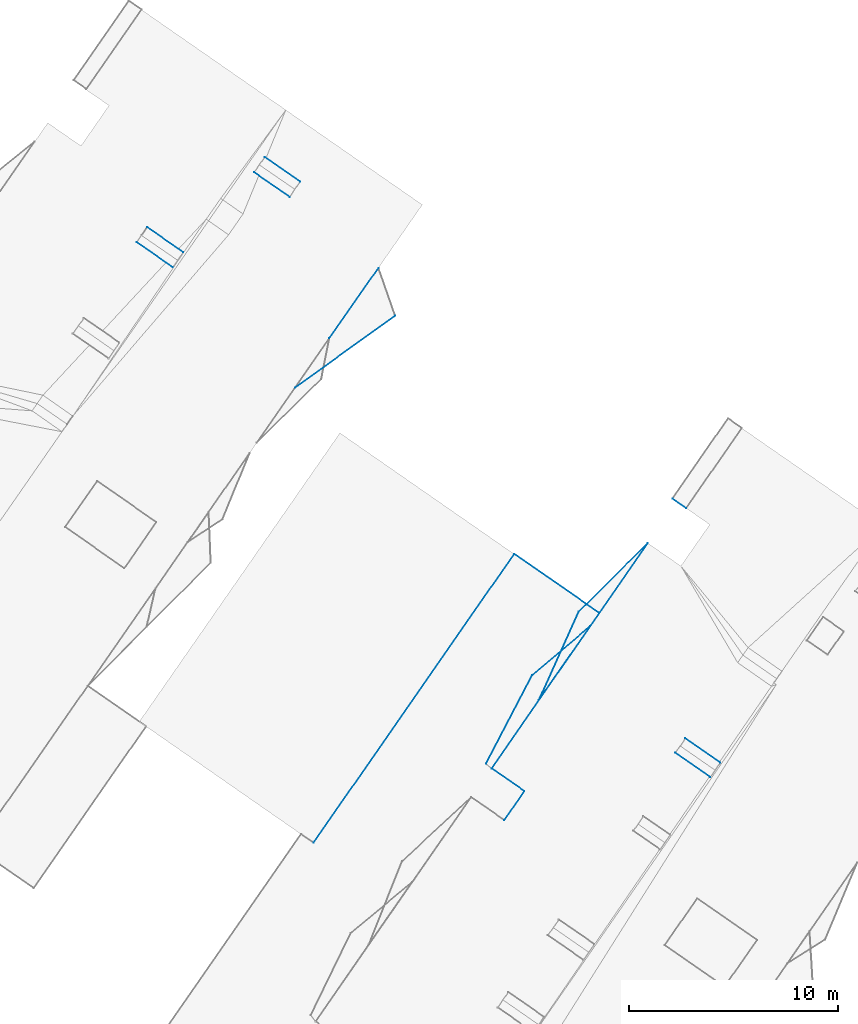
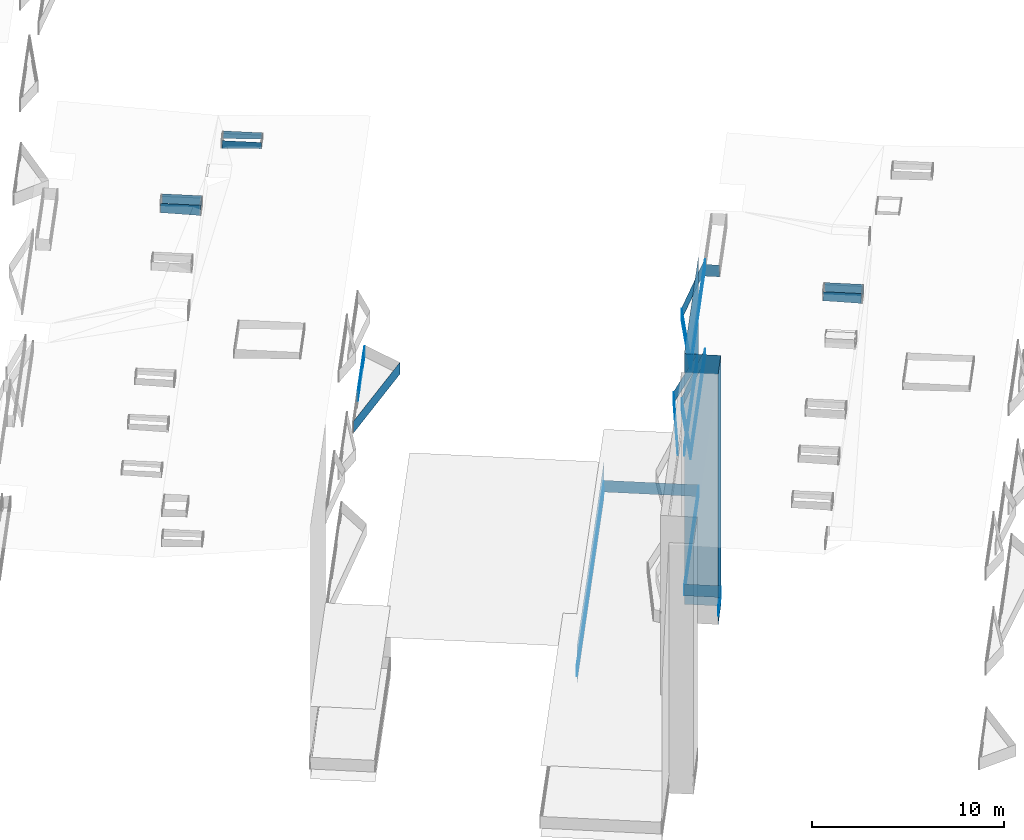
# Not in any storey, part 41 of 136: 44 walls.
"""IFC2X3 building model written with IfcOpenShell, lengths in metres."""

from ifc_helpers import new_model, entity, si_unit, converted_unit, frame, origin, place, context, subcontext, project, spatial, face_set, surface_model, element, save


model = new_model("IFC2X3")

# Units and contexts
model_context = context("Model", 3, precision=1e-05, world=origin())
body_context = subcontext(model_context, "Body", "Model", "MODEL_VIEW")
ifc_project = project(units=[converted_unit("PLANEANGLEUNIT", "DEGREE", entity("IfcRatioMeasure", 0.0174532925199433), si_unit("PLANEANGLEUNIT", "RADIAN"), dimensions=[0, 0, 0, 0, 0, 0, 0]), si_unit("AREAUNIT", "SQUARE_METRE"), si_unit("LENGTHUNIT", "METRE")], contexts=[model_context])

# Site, building
site_placement = place(None, origin())
site = spatial("IfcSite", under=ifc_project, at=site_placement, Name="_site", CompositionType="ELEMENT")
building_1_placement = place(site_placement, origin())
building_1 = spatial("IfcBuilding", under=site, at=building_1_placement, Name="_building", CompositionType="ELEMENT")

# Walls
wall_1_placement = place(building_1_placement, origin())
element("IfcWall", 1, at=wall_1_placement, inside=building_1, Name="Wall", context=body_context, shape_type="SurfaceModel", body=[
    surface_model("IfcFaceBasedSurfaceModel", [(-17.93, 61.93, 44.4), (-16.02, 66.17, 44.4), (-16.02, 66.17, 45.15), (-17.93, 61.93, 45.15)], [face_set([[[0, 1, 2, 3]]])]),
])
wall_2_placement = place(building_1_placement, origin())
element("IfcWall", 2, at=wall_2_placement, inside=building_1, Name="Wall", context=body_context, shape_type="SurfaceModel", body=[
    surface_model("IfcFaceBasedSurfaceModel", [(-16.02, 66.17, 44.4), (-12.71, 69.46, 44.4), (-12.71, 69.46, 45.15), (-16.02, 66.17, 45.15)], [face_set([[[0, 1, 2, 3]]])]),
])
wall_3_placement = place(building_1_placement, origin())
element("IfcWall", 3, at=wall_3_placement, inside=building_1, Name="Wall", context=body_context, shape_type="SurfaceModel", body=[
    surface_model("IfcFaceBasedSurfaceModel", [(-12.71, 69.46, 44.4), (-17.93, 61.93, 44.4), (-17.93, 61.93, 45.15), (-12.71, 69.46, 45.15)], [face_set([[[0, 1, 2, 3]]])]),
])
wall_4_placement = place(building_1_placement, origin())
element("IfcWall", 4, at=wall_4_placement, inside=building_1, Name="Wall", context=body_context, shape_type="SurfaceModel", body=[
    surface_model("IfcFaceBasedSurfaceModel", [(-16.02, 66.17, 44.4), (-12.71, 69.46, 44.4), (-12.71, 69.46, 45.15), (-16.02, 66.17, 45.15)], [face_set([[[0, 1, 2, 3]]])]),
])
wall_5_placement = place(building_1_placement, origin())
element("IfcWall", 5, at=wall_5_placement, inside=building_1, Name="Wall", context=body_context, shape_type="SurfaceModel", body=[
    surface_model("IfcFaceBasedSurfaceModel", [(-17.93, 61.93, 44.4), (-16.02, 66.17, 44.4), (-16.02, 66.17, 45.15), (-17.93, 61.93, 45.15)], [face_set([[[0, 1, 2, 3]]])]),
])
wall_6_placement = place(building_1_placement, origin())
element("IfcWall", 6, at=wall_6_placement, inside=building_1, Name="Wall", context=body_context, shape_type="SurfaceModel", body=[
    surface_model("IfcFaceBasedSurfaceModel", [(-12.71, 69.46, 44.4), (-17.93, 61.93, 44.4), (-17.93, 61.93, 45.15), (-12.71, 69.46, 45.15)], [face_set([[[0, 1, 2, 3]]])]),
])
wall_7_placement = place(building_1_placement, origin())
element("IfcWall", 7, at=wall_7_placement, inside=building_1, Name="Wall", context=body_context, shape_type="SurfaceModel", body=[
    surface_model("IfcFaceBasedSurfaceModel", [(-18.62, 57.58, 38.52), (-19.58, 56.19, 38.52), (-19.58, 56.19, 39.27), (-18.62, 57.58, 39.27)], [face_set([[[0, 1, 2, 3]]])]),
])
wall_8_placement = place(building_1_placement, origin())
element("IfcWall", 8, at=wall_8_placement, inside=building_1, Name="Wall", context=body_context, shape_type="SurfaceModel", body=[
    surface_model("IfcFaceBasedSurfaceModel", [(-20.19, 58.67, 38.52), (-18.62, 57.58, 38.52), (-18.62, 57.58, 39.27), (-20.19, 58.67, 39.27)], [face_set([[[0, 1, 2, 3]]])]),
])
wall_9_placement = place(building_1_placement, origin())
element("IfcWall", 9, at=wall_9_placement, inside=building_1, Name="Wall", context=body_context, shape_type="SurfaceModel", body=[
    surface_model("IfcFaceBasedSurfaceModel", [(-15.03, 66.11, 38.52), (-20.19, 58.67, 38.52), (-20.19, 58.67, 39.27), (-15.03, 66.11, 39.27)], [face_set([[[0, 1, 2, 3]]])]),
])
wall_10_placement = place(building_1_placement, origin())
element("IfcWall", 10, at=wall_10_placement, inside=building_1, Name="Wall", context=body_context, shape_type="SurfaceModel", body=[
    surface_model("IfcFaceBasedSurfaceModel", [(-19.11, 68.94, 38.52), (-15.03, 66.11, 38.52), (-15.03, 66.11, 39.27), (-19.11, 68.94, 39.27)], [face_set([[[0, 1, 2, 3]]])]),
])
wall_11_placement = place(building_1_placement, origin())
element("IfcWall", 11, at=wall_11_placement, inside=building_1, Name="Wall", context=body_context, shape_type="SurfaceModel", body=[
    surface_model("IfcFaceBasedSurfaceModel", [(-28.72, 55.11, 38.52), (-19.11, 68.94, 38.52), (-19.11, 68.94, 39.27), (-28.72, 55.11, 39.27)], [face_set([[[0, 1, 2, 3]]])]),
])
wall_12_placement = place(building_1_placement, origin())
element("IfcWall", 12, at=wall_12_placement, inside=building_1, Name="Wall", context=body_context, shape_type="SurfaceModel", body=[
    surface_model("IfcFaceBasedSurfaceModel", [(-10.91, 60.11, 54.35), (-9.24, 58.95, 54.35), (-9.24, 58.95, 53.711), (-10.91, 60.11, 53.766)], [face_set([[[0, 1, 2, 3]]])]),
])
wall_13_placement = place(building_1_placement, origin())
element("IfcWall", 13, at=wall_13_placement, inside=building_1, Name="Wall", context=body_context, shape_type="SurfaceModel", body=[
    surface_model("IfcFaceBasedSurfaceModel", [(-9.72, 58.26, 54.35), (-11.39, 59.42, 54.35), (-11.39, 59.42, 53.771), (-9.72, 58.26, 53.716)], [face_set([[[0, 1, 2, 3]]])]),
])
wall_14_placement = place(building_1_placement, origin())
element("IfcWall", 14, at=wall_14_placement, inside=building_1, Name="Wall", context=body_context, shape_type="SurfaceModel", body=[
    surface_model("IfcFaceBasedSurfaceModel", [(-18.62, 57.58, 53.94), (-20.19, 58.67, 53.94), (-20.19, 58.67, 37.98), (-18.62, 57.58, 37.98)], [face_set([[[0, 1, 2, 3]]])]),
])
wall_15_placement = place(building_1_placement, origin())
element("IfcWall", 15, at=wall_15_placement, inside=building_1, Name="Wall", context=body_context, shape_type="SurfaceModel", body=[
    surface_model("IfcFaceBasedSurfaceModel", [(-18.25, 63.13, 47.4), (-15.46, 65.49, 47.4), (-15.46, 65.49, 48.15), (-18.25, 63.13, 48.15)], [face_set([[[0, 1, 2, 3]]])]),
])
wall_16_placement = place(building_1_placement, origin())
element("IfcWall", 16, at=wall_16_placement, inside=building_1, Name="Wall", context=body_context, shape_type="SurfaceModel", body=[
    surface_model("IfcFaceBasedSurfaceModel", [(-20.46, 58.9, 47.4), (-18.25, 63.13, 47.4), (-18.25, 63.13, 48.15), (-20.46, 58.9, 48.15)], [face_set([[[0, 1, 2, 3]]])]),
])
wall_17_placement = place(building_1_placement, origin())
element("IfcWall", 17, at=wall_17_placement, inside=building_1, Name="Wall", context=body_context, shape_type="SurfaceModel", body=[
    surface_model("IfcFaceBasedSurfaceModel", [(-15.46, 65.49, 47.4), (-20.19, 58.67, 47.4), (-20.19, 58.67, 48.15), (-15.46, 65.49, 48.15)], [face_set([[[0, 1, 2, 3]]])]),
])
wall_18_placement = place(building_1_placement, origin())
element("IfcWall", 18, at=wall_18_placement, inside=building_1, Name="Wall", context=body_context, shape_type="SurfaceModel", body=[
    surface_model("IfcFaceBasedSurfaceModel", [(-18.25, 63.13, 47.4), (-15.46, 65.49, 47.4), (-15.46, 65.49, 48.15), (-18.25, 63.13, 48.15)], [face_set([[[0, 1, 2, 3]]])]),
])
wall_19_placement = place(building_1_placement, origin())
element("IfcWall", 19, at=wall_19_placement, inside=building_1, Name="Wall", context=body_context, shape_type="SurfaceModel", body=[
    surface_model("IfcFaceBasedSurfaceModel", [(-20.46, 58.9, 47.4), (-18.25, 63.13, 47.4), (-18.25, 63.13, 48.15), (-20.46, 58.9, 48.15)], [face_set([[[0, 1, 2, 3]]])]),
])
wall_20_placement = place(building_1_placement, origin())
element("IfcWall", 20, at=wall_20_placement, inside=building_1, Name="Wall", context=body_context, shape_type="SurfaceModel", body=[
    surface_model("IfcFaceBasedSurfaceModel", [(-15.46, 65.49, 47.4), (-20.19, 58.67, 47.4), (-20.19, 58.67, 48.15), (-15.46, 65.49, 48.15)], [face_set([[[0, 1, 2, 3]]])]),
])
wall_21_placement = place(building_1_placement, origin())
element("IfcWall", 21, at=wall_21_placement, inside=building_1, Name="Wall", context=body_context, shape_type="SurfaceModel", body=[
    surface_model("IfcFaceBasedSurfaceModel", [(-19.11, 68.94, 40.43), (-28.72, 55.11, 40.43), (-28.72, 55.11, 37.98), (-19.11, 68.94, 37.98)], [face_set([[[0, 1, 2, 3]]])]),
])
wall_22_placement = place(building_1_placement, origin())
element("IfcWall", 22, at=wall_22_placement, inside=building_1, Name="Wall", context=body_context, shape_type="SurfaceModel", body=[
    surface_model("IfcFaceBasedSurfaceModel", [(-20.19, 58.67, 53.94), (-15.03, 66.11, 53.94), (-15.03, 66.11, 37.98), (-20.19, 58.67, 37.98)], [face_set([[[0, 1, 2, 3]]])]),
])
wall_23_placement = place(building_1_placement, origin())
element("IfcWall", 23, at=wall_23_placement, inside=building_1, Name="Wall", context=body_context, shape_type="SurfaceModel", body=[
    surface_model("IfcFaceBasedSurfaceModel", [(-19.58, 56.19, 53.94), (-18.62, 57.58, 53.94), (-18.62, 57.58, 37.98), (-19.58, 56.19, 37.98)], [face_set([[[0, 1, 2, 3]]])]),
])
wall_24_placement = place(building_1_placement, origin())
element("IfcWall", 24, at=wall_24_placement, inside=building_1, Name="Wall", context=body_context, shape_type="SurfaceModel", body=[
    surface_model("IfcFaceBasedSurfaceModel", [(-18.62, 57.58, 38.52), (-19.58, 56.19, 38.52), (-19.58, 56.19, 39.27), (-18.62, 57.58, 39.27)], [face_set([[[0, 1, 2, 3]]])]),
])
for number, where, name in (
    (25, (0.0, 0.0, 0.0), "Wall"),
    (26, (0.0, 0.0, 0.0), "Wall"),
):
    element("IfcWall", number, at=place(building_1_placement, frame(where)), inside=building_1, Name=name, context=body_context, shape_type="SurfaceModel", body=[
        surface_model("IfcFaceBasedSurfaceModel", [(-10.87, 71.13, 48.01), (-11.53, 71.59, 48.01), (-11.53, 71.59, 48.76), (-10.87, 71.13, 48.76)], [face_set([[[0, 1, 2, 3]]])]),
    ])
wall_25_placement = place(building_1_placement, origin())
element("IfcWall", 27, at=wall_25_placement, inside=building_1, Name="Wall", context=body_context, shape_type="SurfaceModel", body=[
    surface_model("IfcFaceBasedSurfaceModel", [(-20.19, 58.67, 38.52), (-18.62, 57.58, 38.52), (-18.62, 57.58, 39.27), (-20.19, 58.67, 39.27)], [face_set([[[0, 1, 2, 3]]])]),
])
wall_26_placement = place(building_1_placement, origin())
element("IfcWall", 28, at=wall_26_placement, inside=building_1, Name="Wall", context=body_context, shape_type="SurfaceModel", body=[
    surface_model("IfcFaceBasedSurfaceModel", [(-15.03, 66.11, 38.52), (-20.19, 58.67, 38.52), (-20.19, 58.67, 39.27), (-15.03, 66.11, 39.27)], [face_set([[[0, 1, 2, 3]]])]),
])
wall_27_placement = place(building_1_placement, origin())
element("IfcWall", 29, at=wall_27_placement, inside=building_1, Name="Wall", context=body_context, shape_type="SurfaceModel", body=[
    surface_model("IfcFaceBasedSurfaceModel", [(-19.11, 68.94, 38.52), (-15.03, 66.11, 38.52), (-15.03, 66.11, 39.27), (-19.11, 68.94, 39.27)], [face_set([[[0, 1, 2, 3]]])]),
])
wall_28_placement = place(building_1_placement, origin())
element("IfcWall", 30, at=wall_28_placement, inside=building_1, Name="Wall", context=body_context, shape_type="SurfaceModel", body=[
    surface_model("IfcFaceBasedSurfaceModel", [(-16.02, 66.17, 50.1), (-12.71, 69.46, 50.1), (-12.71, 69.46, 50.85), (-16.02, 66.17, 50.85)], [face_set([[[0, 1, 2, 3]]])]),
])
wall_29_placement = place(building_1_placement, origin())
element("IfcWall", 31, at=wall_29_placement, inside=building_1, Name="Wall", context=body_context, shape_type="SurfaceModel", body=[
    surface_model("IfcFaceBasedSurfaceModel", [(-17.93, 61.93, 50.1), (-16.02, 66.17, 50.1), (-16.02, 66.17, 50.85), (-17.93, 61.93, 50.85)], [face_set([[[0, 1, 2, 3]]])]),
])
wall_30_placement = place(building_1_placement, origin())
element("IfcWall", 32, at=wall_30_placement, inside=building_1, Name="Wall", context=body_context, shape_type="SurfaceModel", body=[
    surface_model("IfcFaceBasedSurfaceModel", [(-12.71, 69.46, 50.1), (-17.93, 61.93, 50.1), (-17.93, 61.93, 50.85), (-12.71, 69.46, 50.85)], [face_set([[[0, 1, 2, 3]]])]),
])
wall_31_placement = place(building_1_placement, origin())
element("IfcWall", 33, at=wall_31_placement, inside=building_1, Name="Wall", context=body_context, shape_type="SurfaceModel", body=[
    surface_model("IfcFaceBasedSurfaceModel", [(-16.02, 66.17, 50.1), (-12.71, 69.46, 50.1), (-12.71, 69.46, 50.85), (-16.02, 66.17, 50.85)], [face_set([[[0, 1, 2, 3]]])]),
])
wall_32_placement = place(building_1_placement, origin())
element("IfcWall", 34, at=wall_32_placement, inside=building_1, Name="Wall", context=body_context, shape_type="SurfaceModel", body=[
    surface_model("IfcFaceBasedSurfaceModel", [(-17.93, 61.93, 50.1), (-16.02, 66.17, 50.1), (-16.02, 66.17, 50.85), (-17.93, 61.93, 50.85)], [face_set([[[0, 1, 2, 3]]])]),
])
wall_33_placement = place(building_1_placement, origin())
element("IfcWall", 35, at=wall_33_placement, inside=building_1, Name="Wall", context=body_context, shape_type="SurfaceModel", body=[
    surface_model("IfcFaceBasedSurfaceModel", [(-12.71, 69.46, 50.1), (-17.93, 61.93, 50.1), (-17.93, 61.93, 50.85), (-12.71, 69.46, 50.85)], [face_set([[[0, 1, 2, 3]]])]),
])

# Building
building_2_placement = place(site_placement, origin())
building_2 = spatial("IfcBuilding", under=site, at=building_2_placement, Name="_building", CompositionType="ELEMENT")

# Walls
wall_34_placement = place(building_2_placement, origin())
element("IfcWall", 36, at=wall_34_placement, inside=building_2, Name="Wall", context=body_context, shape_type="SurfaceModel", body=[
    surface_model("IfcFaceBasedSurfaceModel", [(-28.72, 55.11, 38.52), (-19.11, 68.94, 38.52), (-19.11, 68.94, 39.27), (-28.72, 55.11, 39.27)], [face_set([[[0, 1, 2, 3]]])]),
])
wall_35_placement = place(building_2_placement, origin())
element("IfcWall", 37, at=wall_35_placement, inside=building_2, Name="Wall", context=body_context, shape_type="SurfaceModel", body=[
    surface_model("IfcFaceBasedSurfaceModel", [(-24.81, 80.351, 41.1), (-29.6, 76.91, 41.1), (-29.6, 76.91, 41.85), (-24.81, 80.351, 41.85)], [face_set([[[0, 1, 2, 3]]])]),
])
wall_36_placement = place(building_2_placement, origin())
element("IfcWall", 38, at=wall_36_placement, inside=building_2, Name="Wall", context=body_context, shape_type="SurfaceModel", body=[
    surface_model("IfcFaceBasedSurfaceModel", [(-27.96, 79.271, 41.1), (-25.61, 82.64, 41.1), (-25.61, 82.64, 41.85), (-27.96, 79.271, 41.85)], [face_set([[[0, 1, 2, 3]]])]),
])
wall_37_placement = place(building_2_placement, origin())
element("IfcWall", 39, at=wall_37_placement, inside=building_2, Name="Wall", context=body_context, shape_type="SurfaceModel", body=[
    surface_model("IfcFaceBasedSurfaceModel", [(-24.81, 80.351, 41.1), (-29.6, 76.91, 41.1), (-29.6, 76.91, 41.85), (-24.81, 80.351, 41.85)], [face_set([[[0, 1, 2, 3]]])]),
])
wall_38_placement = place(building_2_placement, origin())
element("IfcWall", 40, at=wall_38_placement, inside=building_2, Name="Wall", context=body_context, shape_type="SurfaceModel", body=[
    surface_model("IfcFaceBasedSurfaceModel", [(-27.96, 79.271, 41.1), (-25.61, 82.64, 41.1), (-25.61, 82.64, 41.85), (-27.96, 79.271, 41.85)], [face_set([[[0, 1, 2, 3]]])]),
])
wall_39_placement = place(building_2_placement, origin())
element("IfcWall", 41, at=wall_39_placement, inside=building_2, Name="Wall", context=body_context, shape_type="SurfaceModel", body=[
    surface_model("IfcFaceBasedSurfaceModel", [(-29.87, 86.04, 54.18), (-31.57, 87.22, 54.18), (-31.57, 87.22, 53.685), (-29.87, 86.04, 53.78)], [face_set([[[0, 1, 2, 3]]])]),
])
wall_40_placement = place(building_2_placement, origin())
element("IfcWall", 42, at=wall_40_placement, inside=building_2, Name="Wall", context=body_context, shape_type="SurfaceModel", body=[
    surface_model("IfcFaceBasedSurfaceModel", [(-35.46, 82.67, 54.18), (-37.19, 83.87, 54.18), (-37.19, 83.87, 53.587), (-35.46, 82.67, 53.525)], [face_set([[[0, 1, 2, 3]]])]),
])
wall_41_placement = place(building_2_placement, origin())
element("IfcWall", 43, at=wall_41_placement, inside=building_2, Name="Wall", context=body_context, shape_type="SurfaceModel", body=[
    surface_model("IfcFaceBasedSurfaceModel", [(-36.69, 84.59, 54.18), (-34.96, 83.39, 54.18), (-34.96, 83.39, 53.515), (-36.69, 84.59, 53.577)], [face_set([[[0, 1, 2, 3]]])]),
])
wall_42_placement = place(building_2_placement, origin())
element("IfcWall", 44, at=wall_42_placement, inside=building_2, Name="Wall", context=body_context, shape_type="SurfaceModel", body=[
    surface_model("IfcFaceBasedSurfaceModel", [(-31.06, 87.95, 54.18), (-29.37, 86.771, 54.18), (-29.37, 86.771, 53.78), (-31.06, 87.95, 53.686)], [face_set([[[0, 1, 2, 3]]])]),
])

save(model, "model.ifc")
